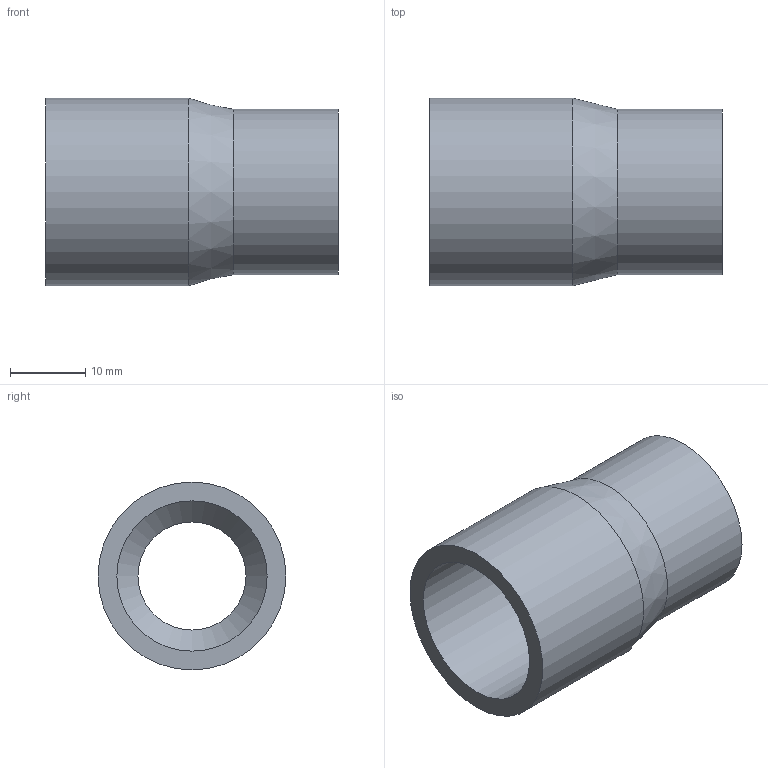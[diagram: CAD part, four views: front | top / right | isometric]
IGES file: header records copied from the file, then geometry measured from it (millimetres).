
Global section: file name: 050200025016.ipt; native system: Autodesk Inventor 2015; preprocessor: unknown; author: KIM; date: 20171207.164122; units: millimetre
Bounding box: 39 x 25 x 25 mm (x, y, z)
Volume: 7746.9 mm3; surface area: 5513.9 mm2
Topology: 1 solids, 1 shells, 10 faces, 23 edges, 16 vertices
Faces by surface type: revolution 4, plane 3, cylinder 2, cone 1
Full cylindrical faces by diameter (mm): 22 x1, 25 x1
